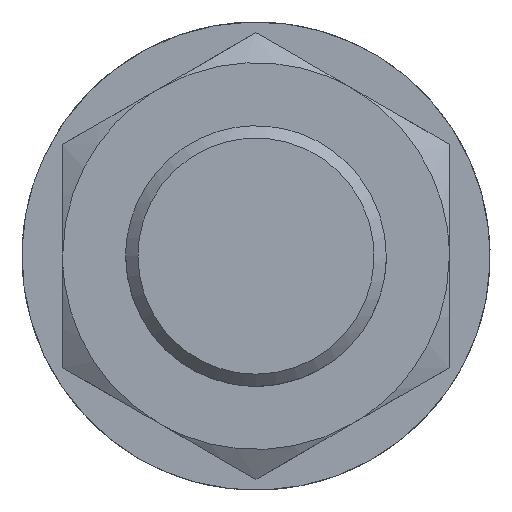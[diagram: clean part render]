
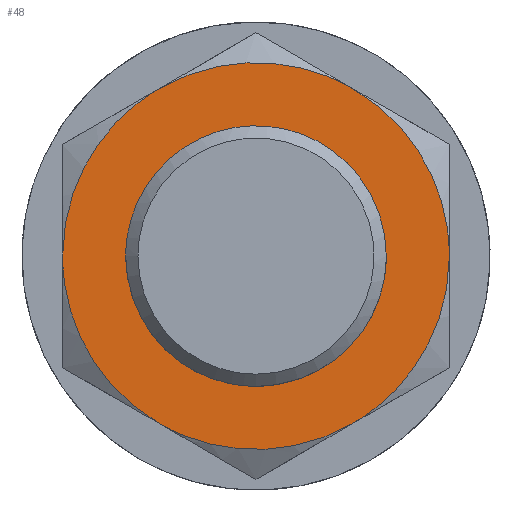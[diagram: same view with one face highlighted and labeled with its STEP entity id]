
A CAD part, left-side view. The second image highlights one B-rep face of the part: STEP entity #48.
In plain terms, the highlighted planar face has unit normal (-1, 0, 0).
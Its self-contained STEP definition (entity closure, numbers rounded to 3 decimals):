
#39=FACE_BOUND('',#135,.T.);
#48=ADVANCED_FACE('',(#90,#39),#650,.T.);
#90=FACE_OUTER_BOUND('',#134,.T.);
#134=EDGE_LOOP('',(#198,#199,#200,#201,#202,#203));
#135=EDGE_LOOP('',(#204,#205));
#198=ORIENTED_EDGE('',*,*,#397,.F.);
#199=ORIENTED_EDGE('',*,*,#399,.F.);
#200=ORIENTED_EDGE('',*,*,#400,.F.);
#201=ORIENTED_EDGE('',*,*,#398,.F.);
#202=ORIENTED_EDGE('',*,*,#396,.F.);
#203=ORIENTED_EDGE('',*,*,#395,.F.);
#204=ORIENTED_EDGE('',*,*,#385,.F.);
#205=ORIENTED_EDGE('',*,*,#383,.F.);
#383=EDGE_CURVE('',#596,#586,#507,.T.);
#385=EDGE_CURVE('',#586,#596,#508,.T.);
#395=EDGE_CURVE('',#590,#591,#516,.T.);
#396=EDGE_CURVE('',#591,#595,#517,.T.);
#397=EDGE_CURVE('',#592,#590,#518,.T.);
#398=EDGE_CURVE('',#595,#594,#519,.T.);
#399=EDGE_CURVE('',#593,#592,#520,.T.);
#400=EDGE_CURVE('',#594,#593,#521,.T.);
#507=(
BOUNDED_CURVE()
B_SPLINE_CURVE(2,(#1153,#1154,#1155,#1156,#1157),.UNSPECIFIED.,.F.,.F.)
B_SPLINE_CURVE_WITH_KNOTS((3,2,3),(100.531,150.797,201.063),
 .UNSPECIFIED.)
CURVE()
GEOMETRIC_REPRESENTATION_ITEM()
RATIONAL_B_SPLINE_CURVE((1.,0.707,1.,0.707,1.))
REPRESENTATION_ITEM('')
);
#508=(
BOUNDED_CURVE()
B_SPLINE_CURVE(2,(#1160,#1161,#1162,#1163,#1164),.UNSPECIFIED.,.F.,.F.)
B_SPLINE_CURVE_WITH_KNOTS((3,2,3),(0.,50.266,100.531),
 .UNSPECIFIED.)
CURVE()
GEOMETRIC_REPRESENTATION_ITEM()
RATIONAL_B_SPLINE_CURVE((1.,0.707,1.,0.707,1.))
REPRESENTATION_ITEM('')
);
#516=(
BOUNDED_CURVE()
B_SPLINE_CURVE(2,(#1202,#1203,#1204),.UNSPECIFIED.,.F.,.F.)
B_SPLINE_CURVE_WITH_KNOTS((3,3),(0.,49.742),.UNSPECIFIED.)
CURVE()
GEOMETRIC_REPRESENTATION_ITEM()
RATIONAL_B_SPLINE_CURVE((1.,0.866,1.))
REPRESENTATION_ITEM('')
);
#517=(
BOUNDED_CURVE()
B_SPLINE_CURVE(2,(#1205,#1206,#1207),.UNSPECIFIED.,.F.,.F.)
B_SPLINE_CURVE_WITH_KNOTS((3,3),(0.,49.742),.UNSPECIFIED.)
CURVE()
GEOMETRIC_REPRESENTATION_ITEM()
RATIONAL_B_SPLINE_CURVE((1.,0.866,1.))
REPRESENTATION_ITEM('')
);
#518=(
BOUNDED_CURVE()
B_SPLINE_CURVE(2,(#1208,#1209,#1210),.UNSPECIFIED.,.F.,.F.)
B_SPLINE_CURVE_WITH_KNOTS((3,3),(0.,49.742),.UNSPECIFIED.)
CURVE()
GEOMETRIC_REPRESENTATION_ITEM()
RATIONAL_B_SPLINE_CURVE((1.,0.866,1.))
REPRESENTATION_ITEM('')
);
#519=(
BOUNDED_CURVE()
B_SPLINE_CURVE(2,(#1211,#1212,#1213),.UNSPECIFIED.,.F.,.F.)
B_SPLINE_CURVE_WITH_KNOTS((3,3),(0.,49.742),.UNSPECIFIED.)
CURVE()
GEOMETRIC_REPRESENTATION_ITEM()
RATIONAL_B_SPLINE_CURVE((1.,0.866,1.))
REPRESENTATION_ITEM('')
);
#520=(
BOUNDED_CURVE()
B_SPLINE_CURVE(2,(#1214,#1215,#1216),.UNSPECIFIED.,.F.,.F.)
B_SPLINE_CURVE_WITH_KNOTS((3,3),(0.,49.742),.UNSPECIFIED.)
CURVE()
GEOMETRIC_REPRESENTATION_ITEM()
RATIONAL_B_SPLINE_CURVE((1.,0.866,1.))
REPRESENTATION_ITEM('')
);
#521=(
BOUNDED_CURVE()
B_SPLINE_CURVE(2,(#1217,#1218,#1219),.UNSPECIFIED.,.F.,.F.)
B_SPLINE_CURVE_WITH_KNOTS((3,3),(0.,49.742),.UNSPECIFIED.)
CURVE()
GEOMETRIC_REPRESENTATION_ITEM()
RATIONAL_B_SPLINE_CURVE((1.,0.866,1.))
REPRESENTATION_ITEM('')
);
#586=VERTEX_POINT('',#1121);
#590=VERTEX_POINT('',#1125);
#591=VERTEX_POINT('',#1126);
#592=VERTEX_POINT('',#1127);
#593=VERTEX_POINT('',#1128);
#594=VERTEX_POINT('',#1129);
#595=VERTEX_POINT('',#1130);
#596=VERTEX_POINT('',#1131);
#650=PLANE('',#764);
#764=AXIS2_PLACEMENT_3D('',#878,#790,$);
#790=DIRECTION('',(-1.,0.,0.));
#878=CARTESIAN_POINT('',(83.667,-57.12,-65.938));
#1121=CARTESIAN_POINT('',(83.667,32.,0.));
#1125=CARTESIAN_POINT('',(83.667,-23.75,-41.136));
#1126=CARTESIAN_POINT('',(83.667,23.75,-41.136));
#1127=CARTESIAN_POINT('',(83.667,-47.5,0.));
#1128=CARTESIAN_POINT('',(83.667,-23.75,41.136));
#1129=CARTESIAN_POINT('',(83.667,23.75,41.136));
#1130=CARTESIAN_POINT('',(83.667,47.5,0.));
#1131=CARTESIAN_POINT('',(83.667,-32.,0.));
#1153=CARTESIAN_POINT('',(83.667,-32.,0.));
#1154=CARTESIAN_POINT('',(83.667,-32.,32.));
#1155=CARTESIAN_POINT('',(83.667,0.,32.));
#1156=CARTESIAN_POINT('',(83.667,32.,32.));
#1157=CARTESIAN_POINT('',(83.667,32.,0.));
#1160=CARTESIAN_POINT('',(83.667,32.,0.));
#1161=CARTESIAN_POINT('',(83.667,32.,-32.));
#1162=CARTESIAN_POINT('',(83.667,0.,-32.));
#1163=CARTESIAN_POINT('',(83.667,-32.,-32.));
#1164=CARTESIAN_POINT('',(83.667,-32.,0.));
#1202=CARTESIAN_POINT('',(83.667,-23.75,-41.136));
#1203=CARTESIAN_POINT('',(83.667,0.,-54.848));
#1204=CARTESIAN_POINT('',(83.667,23.75,-41.136));
#1205=CARTESIAN_POINT('',(83.667,23.75,-41.136));
#1206=CARTESIAN_POINT('',(83.667,47.5,-27.424));
#1207=CARTESIAN_POINT('',(83.667,47.5,0.));
#1208=CARTESIAN_POINT('',(83.667,-47.5,0.));
#1209=CARTESIAN_POINT('',(83.667,-47.5,-27.424));
#1210=CARTESIAN_POINT('',(83.667,-23.75,-41.136));
#1211=CARTESIAN_POINT('',(83.667,47.5,0.));
#1212=CARTESIAN_POINT('',(83.667,47.5,27.424));
#1213=CARTESIAN_POINT('',(83.667,23.75,41.136));
#1214=CARTESIAN_POINT('',(83.667,-23.75,41.136));
#1215=CARTESIAN_POINT('',(83.667,-47.5,27.424));
#1216=CARTESIAN_POINT('',(83.667,-47.5,0.));
#1217=CARTESIAN_POINT('',(83.667,23.75,41.136));
#1218=CARTESIAN_POINT('',(83.667,0.,54.848));
#1219=CARTESIAN_POINT('',(83.667,-23.75,41.136));
